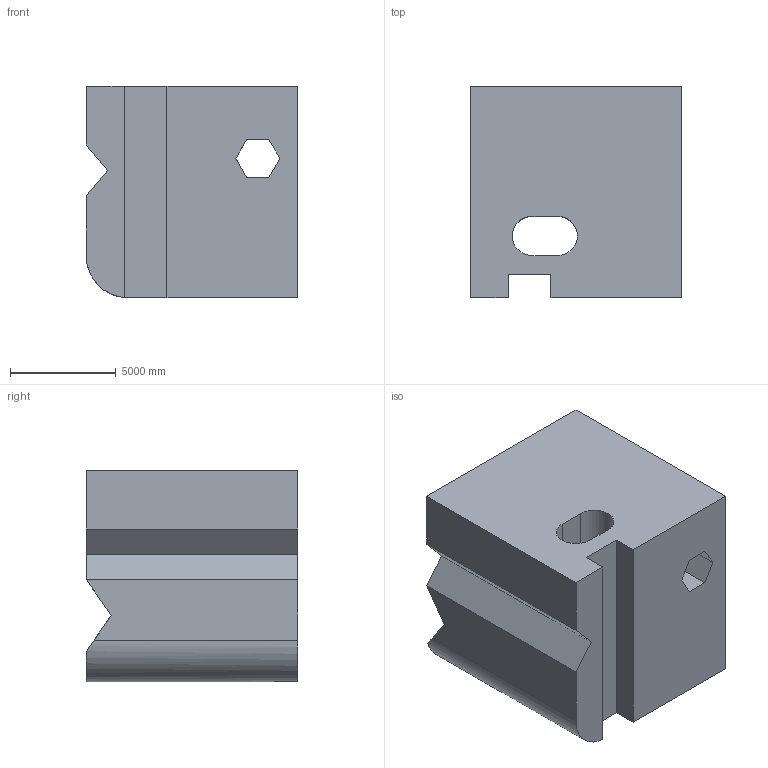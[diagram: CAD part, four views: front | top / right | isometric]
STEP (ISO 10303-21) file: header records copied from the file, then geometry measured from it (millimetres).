
FILE_DESCRIPTION (( 'STEP AP203' ), '1' );
FILE_NAME ('1778.STEP', '2022-08-26T13:24:51', ( 'user' ), ( '' ), 'SwSTEP 2.0', 'SolidWorks 2021', '' );
FILE_SCHEMA (( 'CONFIG_CONTROL_DESIGN' ));
Length unit declared in the file: centimetre
Products named in the file (1): 1778
Bounding box: 10000 x 10000 x 10000 mm (x, y, z)
Volume: 825643614719.7 mm3; surface area: 806564518.7 mm2
Topology: 1 solids, 1 shells, 38 faces, 110 edges, 73 vertices
Faces by surface type: plane 32, cylinder 6
Entity records: 1332 total; most frequent: CARTESIAN_POINT 237, ORIENTED_EDGE 220, DIRECTION 200, EDGE_CURVE 110, VECTOR 88, LINE 88, VERTEX_POINT 73, AXIS2_PLACEMENT_3D 56
